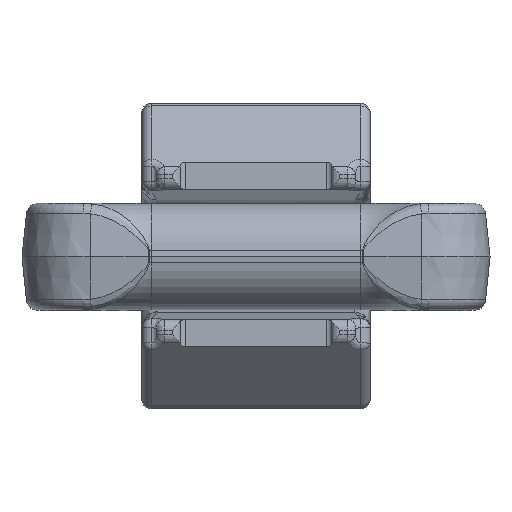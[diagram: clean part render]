
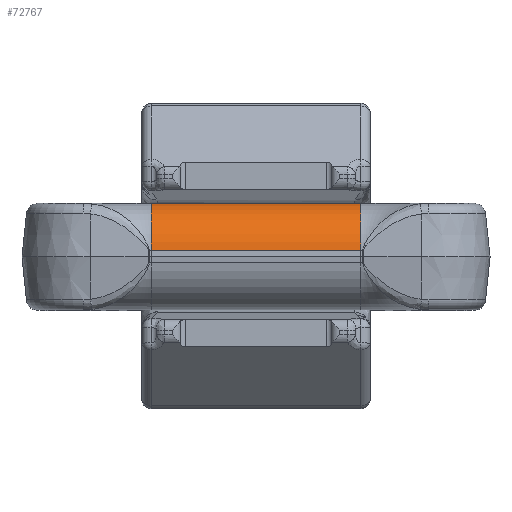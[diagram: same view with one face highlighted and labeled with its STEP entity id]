
A CAD part, top view. The second image highlights one B-rep face of the part: STEP entity #72767.
In plain terms, the highlighted cylindrical face has radius 13.8 mm (diameter 27.6 mm), a partial arc.
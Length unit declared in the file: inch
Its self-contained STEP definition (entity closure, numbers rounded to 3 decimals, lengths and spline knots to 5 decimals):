
#894 = AXIS2_PLACEMENT_3D ( 'NONE', #1626, #44304, #125295 ) ;
#1626 = CARTESIAN_POINT ( 'NONE',  ( -1.08268, 0.00787, 2.95681 ) ) ;
#2046 = EDGE_CURVE ( 'NONE', #51958, #73819, #20713, .T. ) ;
#4698 = CARTESIAN_POINT ( 'NONE',  ( 1.08268, 0.06467, 3.49714 ) ) ;
#11366 = DIRECTION ( 'NONE',  ( 0., 0., 1. ) ) ;
#19817 = VERTEX_POINT ( 'NONE', #43849 ) ;
#20713 = LINE ( 'NONE', #48079, #93093 ) ;
#23539 = VERTEX_POINT ( 'NONE', #91384 ) ;
#24483 = EDGE_CURVE ( 'NONE', #51958, #19817, #127457, .T. ) ;
#27288 = DIRECTION ( 'NONE',  ( 0., 0., -1. ) ) ;
#29053 = DIRECTION ( 'NONE',  ( 1., 0., 0. ) ) ;
#31578 = FACE_OUTER_BOUND ( 'NONE', #91056, .T. ) ;
#36823 = DIRECTION ( 'NONE',  ( -1., 0., 0. ) ) ;
#40731 = CARTESIAN_POINT ( 'NONE',  ( 1.08268, 0.55118, 2.95681 ) ) ;
#43599 = ORIENTED_EDGE ( 'NONE', *, *, #24483, .T. ) ;
#43849 = CARTESIAN_POINT ( 'NONE',  ( 1.08268, 0.55118, 2.95681 ) ) ;
#44304 = DIRECTION ( 'NONE',  ( -1., 0., 0. ) ) ;
#46202 = ORIENTED_EDGE ( 'NONE', *, *, #83221, .F. ) ;
#48079 = CARTESIAN_POINT ( 'NONE',  ( -1.08268, 0.06467, 3.49714 ) ) ;
#50104 = CARTESIAN_POINT ( 'NONE',  ( -1.08268, 0.06467, 3.49714 ) ) ;
#51391 = CIRCLE ( 'NONE', #894, 0.54331 ) ;
#51958 = VERTEX_POINT ( 'NONE', #4698 ) ;
#67580 = ORIENTED_EDGE ( 'NONE', *, *, #94027, .F. ) ;
#72767 = ADVANCED_FACE ( 'NONE', ( #31578 ), #131417, .T. ) ;
#73407 = CARTESIAN_POINT ( 'NONE',  ( 1.08268, 0.00787, 2.95681 ) ) ;
#73819 = VERTEX_POINT ( 'NONE', #50104 ) ;
#83221 = EDGE_CURVE ( 'NONE', #23539, #19817, #85855, .T. ) ;
#85855 = LINE ( 'NONE', #40731, #127647 ) ;
#91056 = EDGE_LOOP ( 'NONE', ( #43599, #46202, #67580, #129391 ) ) ;
#91384 = CARTESIAN_POINT ( 'NONE',  ( -1.08268, 0.55118, 2.95681 ) ) ;
#93093 = VECTOR ( 'NONE', #36823, 39.37008 ) ;
#94027 = EDGE_CURVE ( 'NONE', #73819, #23539, #51391, .T. ) ;
#94537 = DIRECTION ( 'NONE',  ( -1., 0., 0. ) ) ;
#95192 = AXIS2_PLACEMENT_3D ( 'NONE', #110025, #110910, #27288 ) ;
#110025 = CARTESIAN_POINT ( 'NONE',  ( -1.08268, 0.00787, 2.95681 ) ) ;
#110910 = DIRECTION ( 'NONE',  ( 1., 0., 0. ) ) ;
#121841 = AXIS2_PLACEMENT_3D ( 'NONE', #73407, #94537, #11366 ) ;
#125295 = DIRECTION ( 'NONE',  ( 0., -1., 0. ) ) ;
#127457 = CIRCLE ( 'NONE', #121841, 0.54331 ) ;
#127647 = VECTOR ( 'NONE', #29053, 39.37008 ) ;
#129391 = ORIENTED_EDGE ( 'NONE', *, *, #2046, .F. ) ;
#131417 = CYLINDRICAL_SURFACE ( 'NONE', #95192, 0.54331 ) ;
